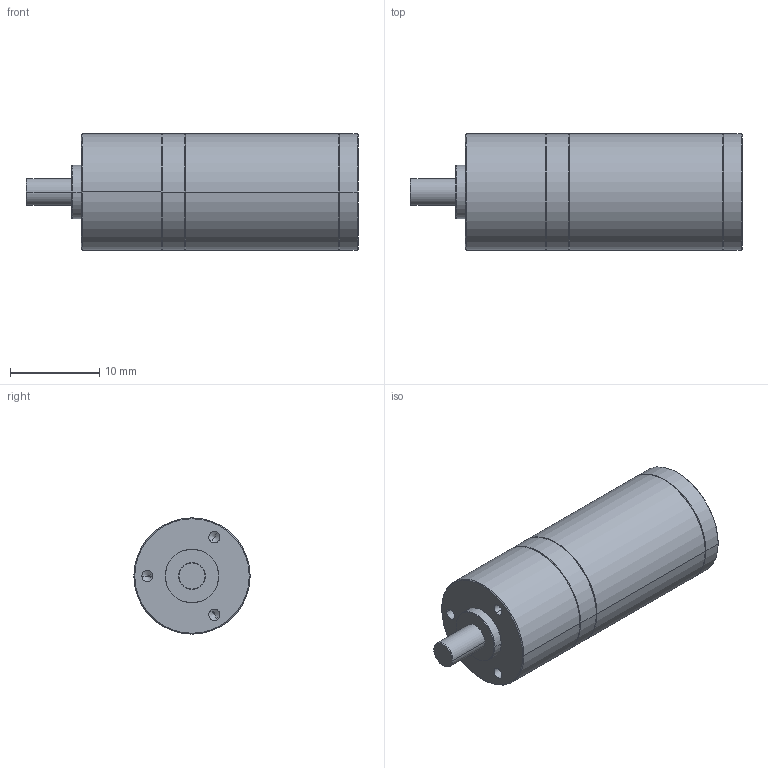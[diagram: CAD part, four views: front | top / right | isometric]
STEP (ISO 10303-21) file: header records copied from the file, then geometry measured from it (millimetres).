
FILE_DESCRIPTION((''),'2;1');
FILE_NAME('1201825','2016-10-04T',('mmagvisi'),(''),'CREO PARAMETRIC BY PTC INC, 2016050','CREO PARAMETRIC BY PTC INC, 2016050','');
FILE_SCHEMA(('CONFIG_CONTROL_DESIGN'));
Length unit declared in the file: millimetre
Products named in the file (1): 1201825
Bounding box: 37.1 x 13 x 13 mm (x, y, z)
Volume: 3961.8 mm3; surface area: 1724.3 mm2
Topology: 1 solids, 1 shells, 57 faces, 118 edges, 63 vertices
Faces by surface type: cone 30, cylinder 22, plane 5
Entity records: 1550 total; most frequent: DIRECTION 286, CARTESIAN_POINT 232, ORIENTED_EDGE 224, AXIS2_PLACEMENT_3D 117, EDGE_CURVE 112, VERTEX_POINT 63, EDGE_LOOP 63, CIRCLE 60
